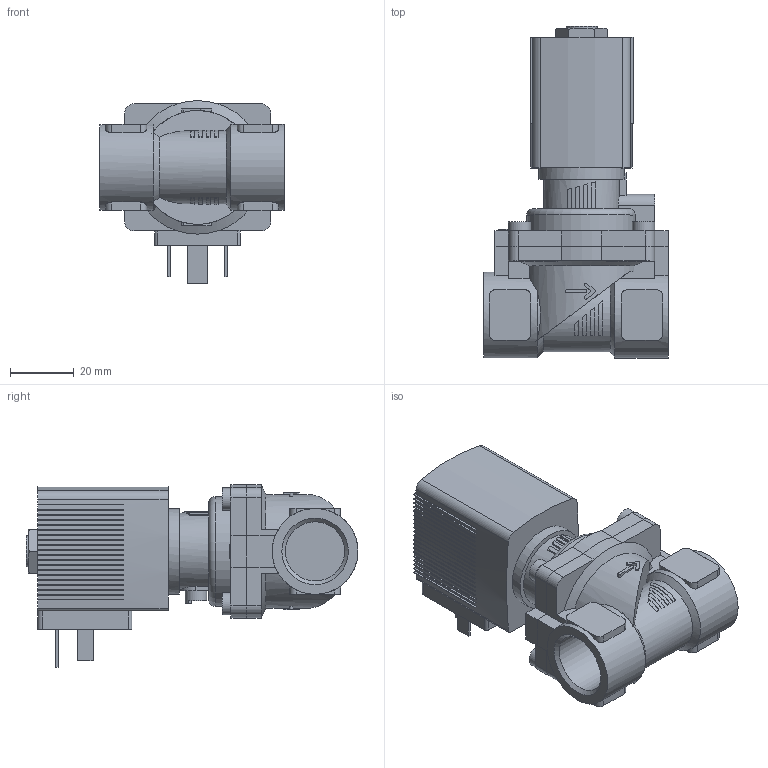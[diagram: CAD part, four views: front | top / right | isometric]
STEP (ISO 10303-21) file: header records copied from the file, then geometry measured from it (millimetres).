
FILE_DESCRIPTION(/* description */ ('STEP AP214'),/* implementation_level */ '2;1');
FILE_NAME(/* name */ '6281-251772-2_2-Way_Solenoid_Valve__Servo-assisted__General_Purpose',/* time_stamp */ '2024-05-14T06:45:49+02:00',/* author */ ('License CC BY-ND 4.0'),/* organization */ ('CADENAS'),/* preprocessor_version */ 'ST-DEVELOPER v19.3',/* originating_system */ 'PARTsolutions',/* authorisation */ ' ');
FILE_SCHEMA (('AUTOMOTIVE_DESIGN {1 0 10303 214 3 1 1}'));
Length unit declared in the file: millimetre
Products named in the file (4): 6281-251772-2/2-Way Solenoid Valve, Servo-assisted, General Purpose; 5281ev131MS2/2-Wege-Magnetventil mit Servomembran-Deckel 42 ; 6213-13G1/2MS-Gehaeuse-kurz; AC10ex-5OO-Plan-Coil
Assembly tree (3 placements, depth 2):
  6281-251772-2/2-Way Solenoid Valve, Servo-assisted, General Purpose
    5281ev131MS2/2-Wege-Magnetventil mit Servomembran-Deckel 42 
    6213-13G1/2MS-Gehaeuse-kurz
    AC10ex-5OO-Plan-Coil
Bounding box: 58 x 104.5 x 57.5 mm (x, y, z)
Volume: 116764.3 mm3; surface area: 29738.1 mm2
Topology: 3 solids, 3 shells, 558 faces, 1542 edges, 1018 vertices
Faces by surface type: plane 450, cylinder 92, cone 15, torus 1
Full cylindrical faces by diameter (mm): 2.013 x1, 6.8 x1, 7 x4, 9.74 x1, 18.631 x2, 27 x2
Entity records: 20507 total; most frequent: CARTESIAN_POINT 3348, ORIENTED_EDGE 3038, DIRECTION 2912, EDGE_CURVE 1519, LINE 1116, VECTOR 1116, VERTEX_POINT 1010, AXIS2_PLACEMENT_3D 898
